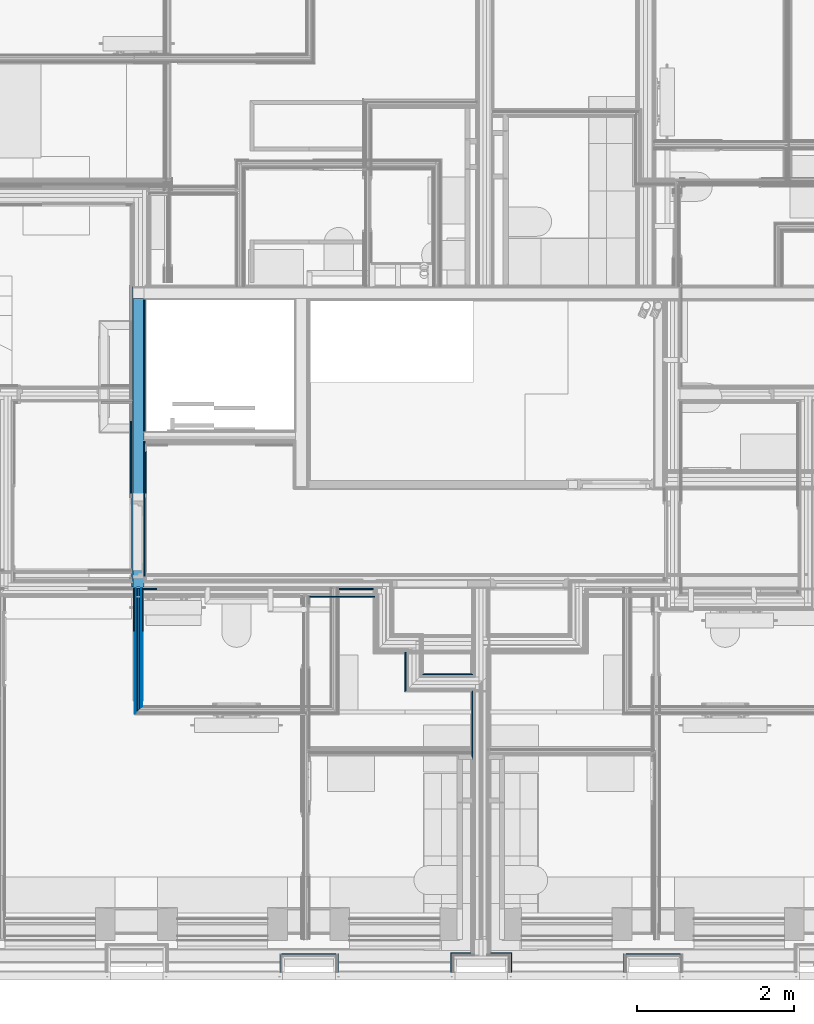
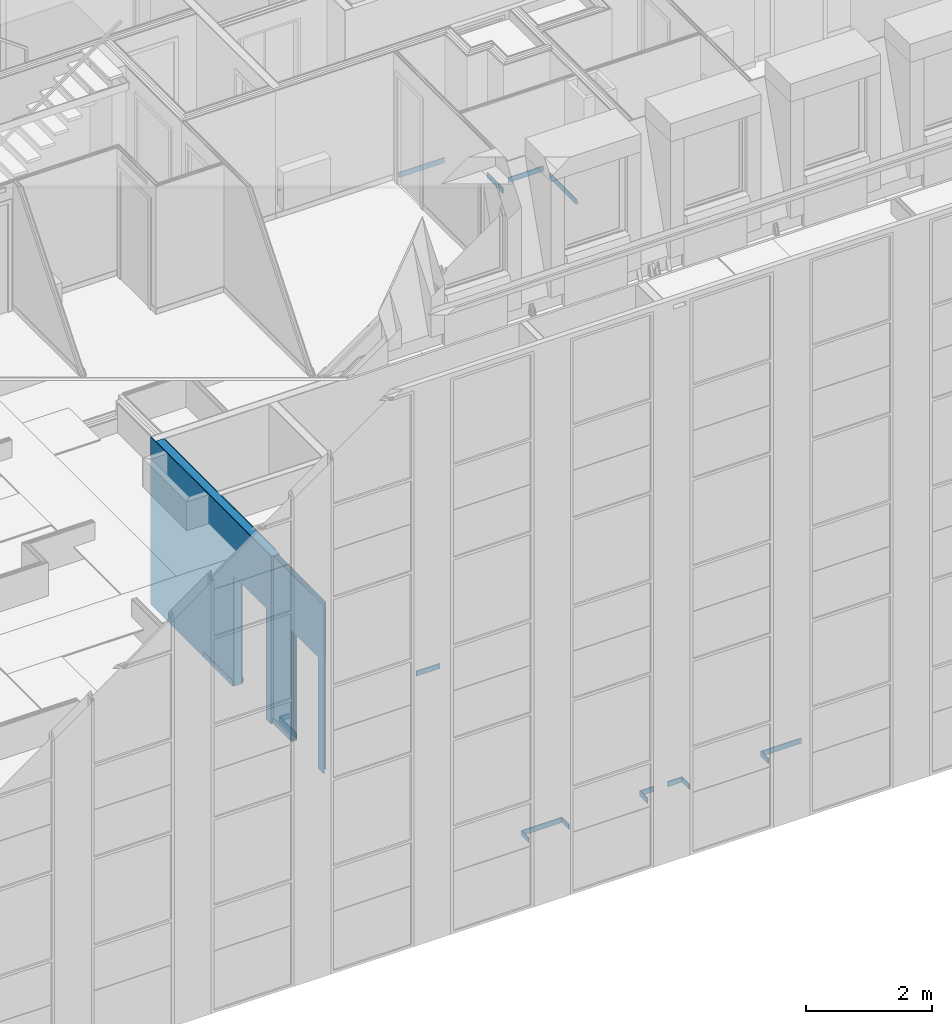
# One storey, part 52 of 169: 28 building element parts, 4 openings, 15 elements without a shape of their own.
"""IFC2X3 building model written with IfcOpenShell, lengths in metres."""

from ifc_helpers import new_model, entity, si_unit, converted_unit, derived_unit, money_unit, direction, frame, frame_2d, origin_with_axes, place, context, subcontext, project, spatial, polyline, rectangle, outline, extrude, material, type_object, element, aggregate, save


model = new_model("IFC2X3")

# Units and contexts
model_context = context("Model", 3, precision=1e-05, world=origin_with_axes(), true_north=direction((0.0, 1.0)))
body_context = subcontext(model_context, "Body", "Model", "MODEL_VIEW", scale=1.0)
ifc_project = project(units=[si_unit("LENGTHUNIT", "METRE"), si_unit("AREAUNIT", "SQUARE_METRE"), si_unit("VOLUMEUNIT", "CUBIC_METRE"), si_unit("ABSORBEDDOSEUNIT", "GRAY"), si_unit("AMOUNTOFSUBSTANCEUNIT", "MOLE"), si_unit("DOSEEQUIVALENTUNIT", "SIEVERT"), si_unit("ELECTRICCAPACITANCEUNIT", "FARAD"), si_unit("ELECTRICCHARGEUNIT", "COULOMB"), si_unit("ELECTRICCONDUCTANCEUNIT", "SIEMENS"), si_unit("ELECTRICCURRENTUNIT", "AMPERE"), si_unit("ELECTRICRESISTANCEUNIT", "OHM"), si_unit("ELECTRICVOLTAGEUNIT", "VOLT"), si_unit("ENERGYUNIT", "JOULE"), si_unit("FORCEUNIT", "NEWTON"), si_unit("FREQUENCYUNIT", "HERTZ"), si_unit("ILLUMINANCEUNIT", "LUX"), si_unit("INDUCTANCEUNIT", "HENRY"), si_unit("LUMINOUSFLUXUNIT", "LUMEN"), si_unit("LUMINOUSINTENSITYUNIT", "CANDELA"), si_unit("MAGNETICFLUXDENSITYUNIT", "TESLA"), si_unit("MAGNETICFLUXUNIT", "WEBER"), si_unit("MASSUNIT", "GRAM"), converted_unit("PLANEANGLEUNIT", "degree", entity("IfcReal", 0.0174532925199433), si_unit("PLANEANGLEUNIT", "RADIAN"), dimensions=[0, 0, 0, 0, 0, 0, 0]), si_unit("POWERUNIT", "WATT"), si_unit("PRESSUREUNIT", "PASCAL"), si_unit("RADIOACTIVITYUNIT", "BECQUEREL"), si_unit("SOLIDANGLEUNIT", "STERADIAN"), si_unit("THERMODYNAMICTEMPERATUREUNIT", "KELVIN"), si_unit("TIMEUNIT", "SECOND"), derived_unit("ACCELERATIONUNIT", [(si_unit("LENGTHUNIT", "METRE"), 1), (si_unit("TIMEUNIT", "SECOND"), -2)]), derived_unit("ANGULARVELOCITYUNIT", [(converted_unit("PLANEANGLEUNIT", "degree", entity("IfcReal", 0.0174532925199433), si_unit("PLANEANGLEUNIT", "RADIAN"), dimensions=[0, 0, 0, 0, 0, 0, 0]), 1), (si_unit("TIMEUNIT", "SECOND"), -1)]), derived_unit("CURVATUREUNIT", [(converted_unit("PLANEANGLEUNIT", "degree", entity("IfcReal", 0.0174532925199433), si_unit("PLANEANGLEUNIT", "RADIAN"), dimensions=[0, 0, 0, 0, 0, 0, 0]), 1), (si_unit("LENGTHUNIT", "METRE"), -1)]), derived_unit("DYNAMICVISCOSITYUNIT", [(si_unit("PRESSUREUNIT", "PASCAL"), 1), (si_unit("TIMEUNIT", "SECOND"), 1)]), derived_unit("HEATFLUXDENSITYUNIT", [(si_unit("POWERUNIT", "WATT"), 1), (si_unit("LENGTHUNIT", "METRE"), -2)]), derived_unit("HEATINGVALUEUNIT", [(si_unit("ENERGYUNIT", "JOULE"), 1), (si_unit("MASSUNIT", "GRAM"), -1)]), derived_unit("INTEGERCOUNTRATEUNIT", [(si_unit("TIMEUNIT", "SECOND"), -1)]), derived_unit("IONCONCENTRATIONUNIT", [(si_unit("MASSUNIT", "GRAM"), 1), (si_unit("VOLUMEUNIT", "CUBIC_METRE"), -1)]), derived_unit("ISOTHERMALMOISTURECAPACITYUNIT", [(si_unit("VOLUMEUNIT", "CUBIC_METRE"), 1), (si_unit("MASSUNIT", "GRAM"), -1)]), derived_unit("KINEMATICVISCOSITYUNIT", [(si_unit("AREAUNIT", "SQUARE_METRE"), 1), (si_unit("TIMEUNIT", "SECOND"), -1)]), derived_unit("LINEARFORCEUNIT", [(si_unit("FORCEUNIT", "NEWTON"), 1), (si_unit("LENGTHUNIT", "METRE"), -1)]), derived_unit("LINEARMOMENTUNIT", [(si_unit("FORCEUNIT", "NEWTON"), 1), (si_unit("LENGTHUNIT", "METRE"), -1)]), derived_unit("LINEARSTIFFNESSUNIT", [(si_unit("FORCEUNIT", "NEWTON"), 1), (si_unit("LENGTHUNIT", "METRE"), -1)]), derived_unit("LINEARVELOCITYUNIT", [(si_unit("LENGTHUNIT", "METRE"), 1), (si_unit("TIMEUNIT", "SECOND"), -1)]), derived_unit("LUMINOUSINTENSITYDISTRIBUTIONUNIT", [(si_unit("LUMINOUSINTENSITYUNIT", "CANDELA"), 1), (si_unit("LUMINOUSFLUXUNIT", "LUMEN"), -1)]), derived_unit("MASSDENSITYUNIT", [(si_unit("MASSUNIT", "GRAM"), 1), (si_unit("VOLUMEUNIT", "CUBIC_METRE"), -1)]), derived_unit("MASSFLOWRATEUNIT", [(si_unit("MASSUNIT", "GRAM"), 1), (si_unit("TIMEUNIT", "SECOND"), -1)]), derived_unit("MASSPERLENGTHUNIT", [(si_unit("MASSUNIT", "GRAM"), 1), (si_unit("LENGTHUNIT", "METRE"), -1)]), derived_unit("MODULUSOFELASTICITYUNIT", [(si_unit("FORCEUNIT", "NEWTON"), 1), (si_unit("AREAUNIT", "SQUARE_METRE"), -1)]), derived_unit("MODULUSOFLINEARSUBGRADEREACTIONUNIT", [(si_unit("FORCEUNIT", "NEWTON"), 1), (si_unit("LENGTHUNIT", "METRE"), -2)]), derived_unit("MODULUSOFROTATIONALSUBGRADEREACTIONUNIT", [(si_unit("FORCEUNIT", "NEWTON"), 1), (si_unit("LENGTHUNIT", "METRE"), 1)]), derived_unit("MODULUSOFSUBGRADEREACTIONUNIT", [(si_unit("FORCEUNIT", "NEWTON"), 1), (si_unit("VOLUMEUNIT", "CUBIC_METRE"), -1)]), derived_unit("MOISTUREDIFFUSIVITYUNIT", [(si_unit("VOLUMEUNIT", "CUBIC_METRE"), 1), (si_unit("TIMEUNIT", "SECOND"), -1)]), derived_unit("MOLECULARWEIGHTUNIT", [(si_unit("MASSUNIT", "GRAM"), 1), (si_unit("AMOUNTOFSUBSTANCEUNIT", "MOLE"), -1)]), derived_unit("PLANARFORCEUNIT", [(si_unit("FORCEUNIT", "NEWTON"), 1), (si_unit("LENGTHUNIT", "METRE"), -2)]), derived_unit("ROTATIONALFREQUENCYUNIT", [(si_unit("TIMEUNIT", "SECOND"), -1)]), derived_unit("ROTATIONALMASSUNIT", [(si_unit("MASSUNIT", "GRAM"), 1), (si_unit("LENGTHUNIT", "METRE"), 2)]), derived_unit("ROTATIONALSTIFFNESSUNIT", [(si_unit("FORCEUNIT", "NEWTON"), 1), (si_unit("LENGTHUNIT", "METRE"), 1), (converted_unit("PLANEANGLEUNIT", "degree", entity("IfcReal", 0.0174532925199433), si_unit("PLANEANGLEUNIT", "RADIAN"), dimensions=[0, 0, 0, 0, 0, 0, 0]), -1)]), derived_unit("SECTIONAREAINTEGRALUNIT", [(si_unit("LENGTHUNIT", "METRE"), 5)]), derived_unit("SECTIONMODULUSUNIT", [(si_unit("LENGTHUNIT", "METRE"), 3)]), derived_unit("SHEARMODULUSUNIT", [(si_unit("FORCEUNIT", "NEWTON"), 1), (si_unit("AREAUNIT", "SQUARE_METRE"), -1)]), derived_unit("SOUNDPOWERUNIT", [(si_unit("ENERGYUNIT", "JOULE"), 1), (si_unit("TIMEUNIT", "SECOND"), -1)]), derived_unit("SPECIFICHEATCAPACITYUNIT", [(si_unit("FORCEUNIT", "NEWTON"), 1), (si_unit("MASSUNIT", "GRAM"), -1), (si_unit("THERMODYNAMICTEMPERATUREUNIT", "KELVIN"), -1)]), derived_unit("TEMPERATUREGRADIENTUNIT", [(si_unit("THERMODYNAMICTEMPERATUREUNIT", "KELVIN"), 1), (si_unit("LENGTHUNIT", "METRE"), -1)]), derived_unit("THERMALADMITTANCEUNIT", [(si_unit("POWERUNIT", "WATT"), 1), (si_unit("AREAUNIT", "SQUARE_METRE"), -1), (si_unit("THERMODYNAMICTEMPERATUREUNIT", "KELVIN"), -1)]), derived_unit("THERMALCONDUCTANCEUNIT", [(si_unit("POWERUNIT", "WATT"), 1), (si_unit("LENGTHUNIT", "METRE"), -1), (si_unit("THERMODYNAMICTEMPERATUREUNIT", "KELVIN"), -1)]), derived_unit("THERMALEXPANSIONCOEFFICIENTUNIT", [(si_unit("THERMODYNAMICTEMPERATUREUNIT", "KELVIN"), -1)]), derived_unit("THERMALRESISTANCEUNIT", [(si_unit("AREAUNIT", "SQUARE_METRE"), 1), (si_unit("POWERUNIT", "WATT"), -1)]), derived_unit("THERMALTRANSMITTANCEUNIT", [(si_unit("POWERUNIT", "WATT"), 1), (si_unit("AREAUNIT", "SQUARE_METRE"), -1), (si_unit("THERMODYNAMICTEMPERATUREUNIT", "KELVIN"), -1)]), derived_unit("TORQUEUNIT", [(si_unit("FORCEUNIT", "NEWTON"), 1), (si_unit("LENGTHUNIT", "METRE"), 1)]), derived_unit("VAPORPERMEABILITYUNIT", [(si_unit("MASSUNIT", "GRAM"), 1), (si_unit("TIMEUNIT", "SECOND"), -1)]), derived_unit("VOLUMETRICFLOWRATEUNIT", [(si_unit("VOLUMEUNIT", "CUBIC_METRE"), 1), (si_unit("TIMEUNIT", "SECOND"), -1)]), derived_unit("WARPINGCONSTANTUNIT", [(si_unit("LENGTHUNIT", "METRE"), 6)]), derived_unit("WARPINGMOMENTUNIT", [(si_unit("FORCEUNIT", "NEWTON"), 1), (si_unit("LENGTHUNIT", "METRE"), 2)]), money_unit("GBP")], contexts=[model_context])

# Site, building, storey
site_placement = place(None, origin_with_axes())
site = spatial("IfcSite", under=ifc_project, at=site_placement, Name="Site", CompositionType="ELEMENT")
building_placement = place(site_placement, origin_with_axes())
building = spatial("IfcBuilding", under=site, at=building_placement, Name="Building01", CompositionType="ELEMENT")
storey_placement = place(building_placement, frame((0.0, 0.0, 5.15), z_axis=(0.0, 0.0, 1.0), x_axis=(1.0, 0.0, 0.0)))
storey = spatial("IfcBuildingStorey", under=building, at=storey_placement, Name="1F", CompositionType="ELEMENT", Elevation=5.15)

# Wall, openings, building element parts
wall_type_1 = type_object("IfcWallType", Name="SHE_A-Walls_Type03a_BlockworkWall_170mm", PredefinedType="NOTDEFINED")
wall_1_placement = place(storey_placement, frame((9.075, 8.665, 0.0), z_axis=(0.0, 0.0, 1.0), x_axis=(0.0, -1.0, 0.0)))
wall_1 = element("IfcWall", 1, at=wall_1_placement, inside=storey, type_object=wall_type_1, Name="4B", ObjectType="SHE_A-Walls_Type03a_BlockworkWall_170mm")
opening_1_placement = place(wall_1_placement, frame((2.527281, -0.03, 0.0), z_axis=(0.0, 0.0, 1.0), x_axis=(1.0, 0.0, 0.0)))
element("IfcOpeningElement", 2, at=opening_1_placement, cuts=wall_1, Name="Opening", ObjectType="Opening", context=body_context, shape_type="SweptSolid", body=[
    extrude(rectangle(XDim=0.984, YDim=2.142, at=frame_2d((-0.492, 1.071), x_axis=(1.0, 0.0))), frame((0.0, 0.0, 0.0), z_axis=(0.0, 1.0, 0.0), x_axis=(-1.0, 0.0, 0.0)), (0.0, 0.0, 1.0), 0.2),
])
opening_2_placement = place(wall_1_placement, frame((2.473, -0.03, 0.0), z_axis=(0.0, 0.0, 1.0), x_axis=(1.0, 0.0, 0.0)))
element("IfcOpeningElement", 3, at=opening_2_placement, cuts=wall_1, Name="Opening", ObjectType="Opening", context=body_context, shape_type="SweptSolid", body=[
    extrude(rectangle(XDim=2.142, YDim=0.984, at=frame_2d((-0.492, 1.071), x_axis=(0.0, -1.0))), frame((0.0, 0.0, 0.0), z_axis=(0.0, 1.0, 0.0), x_axis=(-1.0, 0.0, 0.0)), (0.0, 0.0, 1.0), 0.2),
])
ifc_material_1 = material(Name="A_BSUK_Walls_Timber")
placement_1 = place(wall_1_placement, origin_with_axes())
building_element_part_1 = element("IfcBuildingElementPart", 4, at=placement_1, material=ifc_material_1, Name="1", context=body_context, shape_type="SweptSolid", body=[
    extrude(rectangle(XDim=1.883405, YDim=0.015, at=frame_2d((2.503298, -0.0225), x_axis=(-1.0, 0.0))), frame((0.0, 0.0, 0.015), z_axis=(0.0, 0.0, 1.0), x_axis=(1.0, 0.0, 0.0)), (0.0, 0.0, 1.0), 0.1),
])
ifc_material_2 = material(Name="A_BSUK_WallInternal_Finishes_Plasterboard")
building_element_part_2 = element("IfcBuildingElementPart", 5, at=placement_1, material=ifc_material_2, Name="2", context=body_context, shape_type="SweptSolid", body=[
    extrude(rectangle(XDim=3.825, YDim=0.015, at=frame_2d((1.7575, -0.0075), x_axis=(-1.0, 0.0))), origin_with_axes(), (0.0, 0.0, 1.0), 3.24),
])
ifc_material_3 = material(Name="A_BSUK_WallsInternal_Block")
building_element_part_3 = element("IfcBuildingElementPart", 6, at=placement_1, material=ifc_material_3, Name="3", context=body_context, shape_type="SweptSolid", body=[
    extrude(rectangle(XDim=3.67, YDim=0.14, at=frame_2d((1.835, 0.07), x_axis=(-1.0, 0.0))), origin_with_axes(), (0.0, 0.0, 1.0), 3.24),
])
ifc_material_4 = material(Name="A_BSUK_WallInternal_Finishes_Plaster")
building_element_part_4 = element("IfcBuildingElementPart", 7, at=placement_1, material=ifc_material_4, Name="4", context=body_context, shape_type="SweptSolid", body=[
    extrude(rectangle(XDim=1.67, YDim=0.015, at=frame_2d((0.85, 0.1475), x_axis=(-1.0, 0.0))), origin_with_axes(), (0.0, 0.0, 1.0), 3.24),
])
building_element_part_5 = element("IfcBuildingElementPart", 8, at=placement_1, material=ifc_material_4, Name="5", context=body_context, shape_type="SweptSolid", body=[
    extrude(rectangle(XDim=1.715, YDim=0.015, at=frame_2d((2.6725, 0.1475), x_axis=(-1.0, 0.0))), origin_with_axes(), (0.0, 0.0, 1.0), 3.24),
])
building_element_part_6 = element("IfcBuildingElementPart", 9, at=placement_1, material=ifc_material_1, Name="6", context=body_context, shape_type="SweptSolid", body=[
    extrude(outline(polyline([(3.5, 0.17), (1.940919, 0.17), (1.955919, 0.155), (3.5, 0.155), (3.5, 0.17)])), frame((0.0, 0.0, 0.015), z_axis=(0.0, 0.0, 1.0), x_axis=(1.0, 0.0, 0.0)), (0.0, 0.0, 1.0), 0.1),
])
aggregate(wall_1, [building_element_part_1, building_element_part_2, building_element_part_3, building_element_part_4, building_element_part_5, building_element_part_6])

# Wall, building element part
wall_type_2 = type_object("IfcWallType", Name="SHE_A-Walls_Type06d_ExternalWallInsulation_48mm", PredefinedType="NOTDEFINED")
wall_2_placement = place(storey_placement, frame((11.003, 0.1, 0.0), z_axis=(0.0, 0.0, 1.0), x_axis=(0.0, 1.0, 0.0)))
wall_2 = element("IfcWall", 10, at=wall_2_placement, inside=storey, type_object=wall_type_2, Name="6D", ObjectType="SHE_A-Walls_Type06d_ExternalWallInsulation_48mm")
building_element_part_7_placement = place(wall_2_placement, origin_with_axes())
building_element_part_7 = element("IfcBuildingElementPart", 11, at=building_element_part_7_placement, material=ifc_material_1, Name="3", context=body_context, shape_type="SweptSolid", body=[
    extrude(outline(polyline([(0.233, 0.063), (0.0, 0.063), (0.0, 0.048), (0.218, 0.048), (0.233, 0.063)])), frame((0.0, 0.0, 0.015), z_axis=(0.0, 0.0, 1.0), x_axis=(1.0, 0.0, 0.0)), (0.0, 0.0, 1.0), 0.1),
])
aggregate(wall_2, [building_element_part_7])

wall_3_placement = place(storey_placement, frame((11.003, 0.27, 0.0), z_axis=(0.0, 0.0, 1.0), x_axis=(1.0, 0.0, 0.0)))
wall_3 = element("IfcWall", 12, at=wall_3_placement, inside=storey, type_object=wall_type_2, Name="6D", ObjectType="SHE_A-Walls_Type06d_ExternalWallInsulation_48mm")
building_element_part_8_placement = place(wall_3_placement, origin_with_axes())
building_element_part_8 = element("IfcBuildingElementPart", 13, at=building_element_part_8_placement, material=ifc_material_1, Name="3", context=body_context, shape_type="SweptSolid", body=[
    extrude(outline(polyline([(0.687, 0.063), (-0.063, 0.063), (-0.048, 0.048), (0.672, 0.048), (0.687, 0.063)])), frame((0.0, 0.0, 0.015), z_axis=(0.0, 0.0, 1.0), x_axis=(1.0, 0.0, 0.0)), (0.0, 0.0, 1.0), 0.1),
])
aggregate(wall_3, [building_element_part_8])

wall_4_placement = place(storey_placement, frame((11.627, 0.27, 0.0), z_axis=(0.0, 0.0, 1.0), x_axis=(0.0, -1.0, 0.0)))
wall_4 = element("IfcWall", 14, at=wall_4_placement, inside=storey, type_object=wall_type_2, Name="6D", ObjectType="SHE_A-Walls_Type06d_ExternalWallInsulation_48mm")
building_element_part_9_placement = place(wall_4_placement, origin_with_axes())
building_element_part_9 = element("IfcBuildingElementPart", 15, at=building_element_part_9_placement, material=ifc_material_1, Name="3", context=body_context, shape_type="SweptSolid", body=[
    extrude(outline(polyline([(-0.063, 0.063), (-0.048, 0.048), (0.17, 0.048), (0.17, 0.063), (-0.063, 0.063)])), frame((0.0, 0.0, 0.015), z_axis=(0.0, 0.0, 1.0), x_axis=(1.0, 0.0, 0.0)), (0.0, 0.0, 1.0), 0.1),
])
aggregate(wall_4, [building_element_part_9])

wall_5_placement = place(storey_placement, frame((15.383, 0.1, 0.0), z_axis=(0.0, 0.0, 1.0), x_axis=(0.0, 1.0, 0.0)))
wall_5 = element("IfcWall", 16, at=wall_5_placement, inside=storey, type_object=wall_type_2, Name="6D", ObjectType="SHE_A-Walls_Type06d_ExternalWallInsulation_48mm")
building_element_part_10_placement = place(wall_5_placement, origin_with_axes())
building_element_part_10 = element("IfcBuildingElementPart", 17, at=building_element_part_10_placement, material=ifc_material_1, Name="3", context=body_context, shape_type="SweptSolid", body=[
    extrude(outline(polyline([(0.233, 0.063), (0.0, 0.063), (0.0, 0.048), (0.218, 0.048), (0.233, 0.063)])), frame((0.0, 0.0, 0.015), z_axis=(0.0, 0.0, 1.0), x_axis=(1.0, 0.0, 0.0)), (0.0, 0.0, 1.0), 0.1),
])
aggregate(wall_5, [building_element_part_10])

wall_6_placement = place(storey_placement, frame((15.383, 0.27, 0.0), z_axis=(0.0, 0.0, 1.0), x_axis=(1.0, 0.0, 0.0)))
wall_6 = element("IfcWall", 18, at=wall_6_placement, inside=storey, type_object=wall_type_2, Name="6D", ObjectType="SHE_A-Walls_Type06d_ExternalWallInsulation_48mm")
building_element_part_11_placement = place(wall_6_placement, origin_with_axes())
building_element_part_11 = element("IfcBuildingElementPart", 19, at=building_element_part_11_placement, material=ifc_material_1, Name="3", context=body_context, shape_type="SweptSolid", body=[
    extrude(outline(polyline([(0.687, 0.063), (-0.063, 0.063), (-0.048, 0.048), (0.672, 0.048), (0.687, 0.063)])), frame((0.0, 0.0, 0.015), z_axis=(0.0, 0.0, 1.0), x_axis=(1.0, 0.0, 0.0)), (0.0, 0.0, 1.0), 0.1),
])
aggregate(wall_6, [building_element_part_11])

# Wall, openings, building element parts
wall_type_3 = type_object("IfcWallType", Name="SHE_A-Walls_Type05a_Partition_95mm_tall", PredefinedType="NOTDEFINED")
wall_7_placement = place(storey_placement, frame((9.132536, 4.98, 0.0), z_axis=(0.0, 0.0, 1.0), x_axis=(0.0, -1.0, 0.0)))
wall_7 = element("IfcWall", 20, at=wall_7_placement, inside=storey, type_object=wall_type_3, Name="5A", ObjectType="SHE_A-Walls_Type05a_Partition_95mm_tall")
opening_3_placement = place(wall_7_placement, frame((0.574219, -0.035, -0.015), z_axis=(0.0, 0.0, 1.0), x_axis=(1.0, 0.0, 0.0)))
element("IfcOpeningElement", 21, at=opening_3_placement, cuts=wall_7, Name="Opening", ObjectType="Recess", context=body_context, shape_type="SweptSolid", body=[
    extrude(rectangle(XDim=0.834, YDim=2.142, at=frame_2d((-0.417, 1.071), x_axis=(1.0, 0.0))), frame((0.0, 0.0, 0.0), z_axis=(0.0, 1.0, 0.0), x_axis=(-1.0, 0.0, 0.0)), (0.0, 0.0, 1.0), 0.095),
])
opening_4_placement = place(wall_7_placement, frame((0.574219, -0.035, 0.0), z_axis=(0.0, 0.0, 1.0), x_axis=(1.0, 0.0, 0.0)))
element("IfcOpeningElement", 22, at=opening_4_placement, cuts=wall_7, Name="Opening", ObjectType="Recess", context=body_context, shape_type="SweptSolid", body=[
    extrude(rectangle(XDim=0.834, YDim=2.142, at=frame_2d((-0.417, 1.071), x_axis=(-1.0, 0.0))), frame((0.0, 0.0, 0.0), z_axis=(0.0, 1.0, 0.0), x_axis=(-1.0, 0.0, 0.0)), (0.0, 0.0, 1.0), 0.095),
    extrude(rectangle(XDim=1.034, YDim=2.142, at=frame_2d((-0.517, 1.071), x_axis=(-1.0, 0.0))), frame((0.0, 0.035, 0.0), z_axis=(0.0, 1.0, 0.0), x_axis=(-1.0, 0.0, 0.0)), (0.0, 0.0, 1.0), 0.025),
    extrude(rectangle(XDim=1.034, YDim=2.142, at=frame_2d((-0.517, 1.071), x_axis=(-1.0, 0.0))), frame((0.0, 0.06, 0.0), z_axis=(0.0, 1.0, 0.0), x_axis=(-1.0, 0.0, 0.0)), (0.0, 0.0, 1.0), 0.023),
])
placement_2 = place(wall_7_placement, origin_with_axes())
building_element_part_12 = element("IfcBuildingElementPart", 23, at=placement_2, material=ifc_material_1, Name="1", context=body_context, shape_type="SweptSolid", body=[
    extrude(rectangle(XDim=0.015, YDim=0.547219, at=frame_2d((0.27361, -0.0425), x_axis=(0.0, -1.0))), frame((0.0, 0.0, 0.015), z_axis=(0.0, 0.0, 1.0), x_axis=(1.0, 0.0, 0.0)), (0.0, 0.0, 1.0), 0.1),
])
building_element_part_13 = element("IfcBuildingElementPart", 24, at=placement_2, material=ifc_material_2, Name="2", context=body_context, shape_type="SweptSolid", body=[
    extrude(outline(polyline([(1.583, -0.023), (0.0, -0.023), (0.0, -0.035), (1.595, -0.035), (1.583, -0.023)])), origin_with_axes(), (0.0, 0.0, 1.0), 3.24),
])
ifc_material_5 = material(Name="Air Cavity")
building_element_part_14 = element("IfcBuildingElementPart", 25, at=placement_2, material=ifc_material_5, Name="3", context=body_context, shape_type="SweptSolid", body=[
    extrude(outline(polyline([(1.56, 0.0), (0.0, 0.0), (0.0, -0.023), (1.583, -0.023), (1.56, 0.0)])), origin_with_axes(), (0.0, 0.0, 1.0), 3.24),
])
ifc_material_6 = material(Name="A_BSUK_Insulation")
building_element_part_15 = element("IfcBuildingElementPart", 26, at=placement_2, material=ifc_material_6, Name="4", context=body_context, shape_type="SweptSolid", body=[
    extrude(outline(polyline([(1.535, 0.025), (0.0, 0.025), (0.0, 0.0), (1.56, 0.0), (1.535, 0.025)])), origin_with_axes(), (0.0, 0.0, 1.0), 3.24),
])
building_element_part_16 = element("IfcBuildingElementPart", 27, at=placement_2, material=ifc_material_5, Name="5", context=body_context, shape_type="SweptSolid", body=[
    extrude(outline(polyline([(1.512, 0.048), (0.0, 0.048), (0.0, 0.025), (1.535, 0.025), (1.512, 0.048)])), origin_with_axes(), (0.0, 0.0, 1.0), 3.24),
])
building_element_part_17 = element("IfcBuildingElementPart", 28, at=placement_2, material=ifc_material_2, Name="6", context=body_context, shape_type="SweptSolid", body=[
    extrude(outline(polyline([(1.5, 0.06), (0.0, 0.06), (0.0, 0.048), (1.512, 0.048), (1.5, 0.06)])), origin_with_axes(), (0.0, 0.0, 1.0), 3.24),
])
building_element_part_18 = element("IfcBuildingElementPart", 29, at=placement_2, material=ifc_material_1, Name="7", context=body_context, shape_type="SweptSolid", body=[
    extrude(rectangle(XDim=0.015, YDim=0.547219, at=frame_2d((0.27361, 0.0675), x_axis=(0.0, -1.0))), frame((0.0, 0.0, 0.015), z_axis=(0.0, 0.0, 1.0), x_axis=(1.0, 0.0, 0.0)), (0.0, 0.0, 1.0), 0.1),
])
aggregate(wall_7, [building_element_part_12, building_element_part_13, building_element_part_14, building_element_part_15, building_element_part_16, building_element_part_17, building_element_part_18])

# Wall, building element parts
wall_8_placement = place(storey_placement, frame((9.215, 4.995, 0.0), z_axis=(0.0, 0.0, 1.0), x_axis=(1.0, 0.0, 0.0)))
wall_8 = element("IfcWall", 30, at=wall_8_placement, inside=storey, type_object=wall_type_1, Name="4B", ObjectType="SHE_A-Walls_Type03a_BlockworkWall_170mm")
placement_3 = place(wall_8_placement, origin_with_axes())
building_element_part_19 = element("IfcBuildingElementPart", 31, at=placement_3, material=ifc_material_1, Name="1", context=body_context, shape_type="SweptSolid", body=[
    extrude(rectangle(XDim=0.169464, YDim=0.015, at=frame_2d((0.077268, -0.0225), x_axis=(-1.0, 0.0))), frame((0.0, 0.0, 0.015), z_axis=(0.0, 0.0, 1.0), x_axis=(1.0, 0.0, 0.0)), (0.0, 0.0, 1.0), 0.1),
])
building_element_part_20 = element("IfcBuildingElementPart", 32, at=placement_3, material=ifc_material_1, Name="6", context=body_context, shape_type="SweptSolid", body=[
    extrude(rectangle(XDim=0.432464, YDim=0.015, at=frame_2d((2.703768, -0.0225), x_axis=(-1.0, 0.0))), frame((0.0, 0.0, 0.015), z_axis=(0.0, 0.0, 1.0), x_axis=(1.0, 0.0, 0.0)), (0.0, 0.0, 1.0), 0.1),
])
aggregate(wall_8, [building_element_part_19, building_element_part_20])

wall_type_4 = type_object("IfcWallType", Name="SHE_A-Walls_Type06f_ExternalWallInsulation_48+15mm", PredefinedType="NOTDEFINED")
wall_9_placement = place(storey_placement, frame((13.157, 0.27, 0.0), z_axis=(0.0, 0.0, 1.0), x_axis=(1.0, 0.0, 0.0)))
wall_9 = element("IfcWall", 33, at=wall_9_placement, inside=storey, type_object=wall_type_4, Name="6F", ObjectType="SHE_A-Walls_Type06f_ExternalWallInsulation_48+15mm")
placement_4 = place(wall_9_placement, origin_with_axes())
building_element_part_21 = element("IfcBuildingElementPart", 34, at=placement_4, material=ifc_material_1, Name="6", context=body_context, shape_type="SweptSolid", body=[
    extrude(outline(polyline([(0.2155, 0.078), (-0.042, 0.078), (-0.027, 0.063), (0.2155, 0.063), (0.2155, 0.078)])), frame((0.0, 0.0, 0.015), z_axis=(0.0, 0.0, 1.0), x_axis=(1.0, 0.0, 0.0)), (0.0, 0.0, 1.0), 0.1),
])
building_element_part_22 = element("IfcBuildingElementPart", 35, at=placement_4, material=ifc_material_1, Name="7", context=body_context, shape_type="SweptSolid", body=[
    extrude(outline(polyline([(0.738, 0.078), (0.4705, 0.078), (0.4705, 0.063), (0.723, 0.063), (0.738, 0.078)])), frame((0.0, 0.0, 0.015), z_axis=(0.0, 0.0, 1.0), x_axis=(1.0, 0.0, 0.0)), (0.0, 0.0, 1.0), 0.1),
])
aggregate(wall_9, [building_element_part_21, building_element_part_22])

# Wall, building element part
wall_10_placement = place(storey_placement, frame((13.817, 0.27, 0.0), z_axis=(0.0, 0.0, 1.0), x_axis=(0.0, -1.0, 0.0)))
wall_10 = element("IfcWall", 36, at=wall_10_placement, inside=storey, type_object=wall_type_4, Name="6F", ObjectType="SHE_A-Walls_Type06f_ExternalWallInsulation_48+15mm")
building_element_part_23_placement = place(wall_10_placement, origin_with_axes())
building_element_part_23 = element("IfcBuildingElementPart", 37, at=building_element_part_23_placement, material=ifc_material_1, Name="4", context=body_context, shape_type="SweptSolid", body=[
    extrude(outline(polyline([(-0.078, 0.078), (-0.063, 0.063), (0.17, 0.063), (0.17, 0.078), (-0.078, 0.078)])), frame((0.0, 0.0, 0.015), z_axis=(0.0, 0.0, 1.0), x_axis=(1.0, 0.0, 0.0)), (0.0, 0.0, 1.0), 0.1),
])
aggregate(wall_10, [building_element_part_23])

wall_11_placement = place(storey_placement, frame((13.193, 0.1, 0.0), z_axis=(0.0, 0.0, 1.0), x_axis=(0.0, 1.0, 0.0)))
wall_11 = element("IfcWall", 38, at=wall_11_placement, inside=storey, type_object=wall_type_4, Name="6F", ObjectType="SHE_A-Walls_Type06f_ExternalWallInsulation_48+15mm")
building_element_part_24_placement = place(wall_11_placement, origin_with_axes())
building_element_part_24 = element("IfcBuildingElementPart", 39, at=building_element_part_24_placement, material=ifc_material_1, Name="4", context=body_context, shape_type="SweptSolid", body=[
    extrude(outline(polyline([(0.248, 0.078), (0.0, 0.078), (0.0, 0.063), (0.233, 0.063), (0.248, 0.078)])), frame((0.0, 0.0, 0.015), z_axis=(0.0, 0.0, 1.0), x_axis=(1.0, 0.0, 0.0)), (0.0, 0.0, 1.0), 0.1),
])
aggregate(wall_11, [building_element_part_24])

wall_type_5 = type_object("IfcWallType", Name="SHE_A-Walls_Type01d_Partywall_200mm_twin", PredefinedType="NOTDEFINED")
wall_12_placement = place(storey_placement, frame((13.475, 3.805, 9.83), z_axis=(0.0, 0.0, 1.0), x_axis=(0.0, -1.0, 0.0)))
wall_12 = element("IfcWall", 40, at=wall_12_placement, inside=storey, type_object=wall_type_5, Name="1D", ObjectType="SHE_A-Walls_Type01d_Partywall_200mm_twin")
building_element_part_25_placement = place(wall_12_placement, origin_with_axes())
building_element_part_25 = element("IfcBuildingElementPart", 41, at=building_element_part_25_placement, material=ifc_material_1, Name="1", context=body_context, shape_type="SweptSolid", body=[
    extrude(outline(polyline([(1.000239, -0.075), (0.125, -0.075), (0.14, -0.09), (0.950239, -0.09), (1.000239, -0.075)])), frame((0.0, 0.0, 0.015), z_axis=(0.0, 0.0, 1.0), x_axis=(1.0, 0.0, 0.0)), (0.0, 0.0, 1.0), 0.1),
])
aggregate(wall_12, [building_element_part_25])

wall_13_placement = place(storey_placement, frame((12.65, 3.78, 9.83), z_axis=(0.0, 0.0, 1.0), x_axis=(1.0, 0.0, 0.0)))
wall_13 = element("IfcWall", 42, at=wall_13_placement, inside=storey, type_object=wall_type_5, Name="1D", ObjectType="SHE_A-Walls_Type01d_Partywall_200mm_twin")
building_element_part_26_placement = place(wall_13_placement, origin_with_axes())
building_element_part_26 = element("IfcBuildingElementPart", 43, at=building_element_part_26_placement, material=ifc_material_1, Name="9", context=body_context, shape_type="SweptSolid", body=[
    extrude(outline(polyline([(0.735, 0.115), (0.115, 0.115), (0.1, 0.1), (0.75, 0.1), (0.735, 0.115)])), frame((0.0, 0.0, 0.015), z_axis=(0.0, 0.0, 1.0), x_axis=(1.0, 0.0, 0.0)), (0.0, 0.0, 1.0), 0.1),
])
aggregate(wall_13, [building_element_part_26])

wall_14_placement = place(storey_placement, frame((12.65, 4.264428, 9.83), z_axis=(0.0, 0.0, 1.0), x_axis=(0.0, -1.0, 0.0)))
wall_14 = element("IfcWall", 44, at=wall_14_placement, inside=storey, type_object=wall_type_5, Name="1D", ObjectType="SHE_A-Walls_Type01d_Partywall_200mm_twin")
building_element_part_27_placement = place(wall_14_placement, origin_with_axes())
building_element_part_27 = element("IfcBuildingElementPart", 45, at=building_element_part_27_placement, material=ifc_material_1, Name="1", context=body_context, shape_type="SweptSolid", body=[
    extrude(outline(polyline([(0.584428, -0.1), (0.09, -0.1), (0.09, -0.115), (0.599428, -0.115), (0.584428, -0.1)])), frame((0.0, 0.0, 0.015), z_axis=(0.0, 0.0, 1.0), x_axis=(1.0, 0.0, 0.0)), (0.0, 0.0, 1.0), 0.1),
])
aggregate(wall_14, [building_element_part_27])

wall_15_placement = place(storey_placement, frame((9.215, 4.955, 9.83), z_axis=(0.0, 0.0, 1.0), x_axis=(1.0, 0.0, 0.0)))
wall_15 = element("IfcWall", 46, at=wall_15_placement, inside=storey, type_object=wall_type_5, Name="1D", ObjectType="SHE_A-Walls_Type01d_Partywall_200mm_twin")
building_element_part_28_placement = place(wall_15_placement, origin_with_axes())
building_element_part_28 = element("IfcBuildingElementPart", 47, at=building_element_part_28_placement, material=ifc_material_1, Name="2", context=body_context, shape_type="SweptSolid", body=[
    extrude(rectangle(XDim=0.835, YDim=0.015, at=frame_2d((2.5275, -0.0825), x_axis=(-1.0, 0.0))), frame((0.0, 0.0, 0.015), z_axis=(0.0, 0.0, 1.0), x_axis=(1.0, 0.0, 0.0)), (0.0, 0.0, 1.0), 0.1),
])
aggregate(wall_15, [building_element_part_28])

save(model, "model.ifc")
